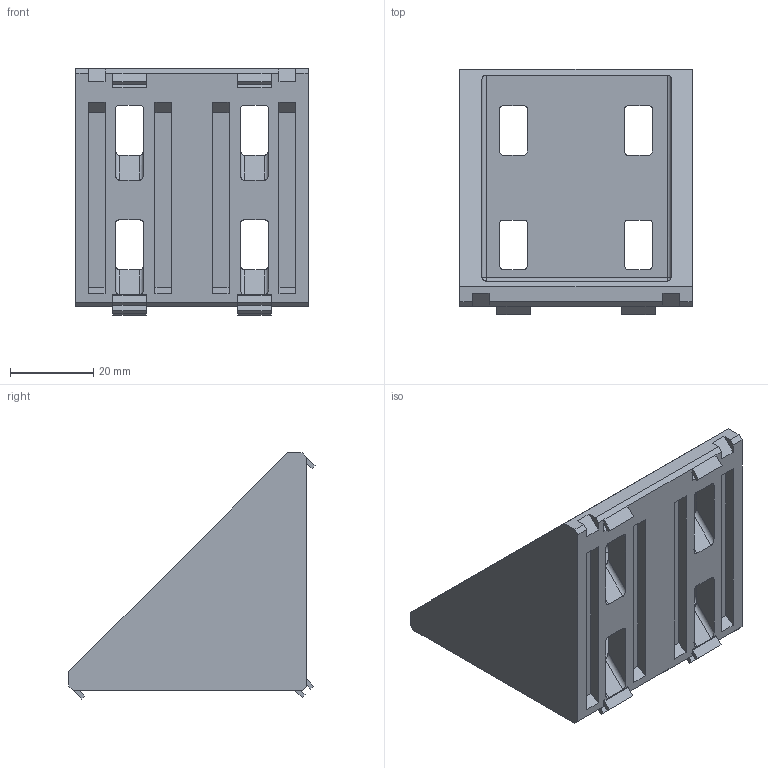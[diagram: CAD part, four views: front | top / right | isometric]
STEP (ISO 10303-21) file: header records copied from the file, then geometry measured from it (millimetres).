
FILE_DESCRIPTION (( 'STEP AP214' ), '1' );
FILE_NAME ('SNSD.30.51.61. Óãëîâîé àëþìèíèåâûé ñîåäèíèòåëü 60õ60, ïàç 8(A10).STEP', '2014-12-08T13:15:54', ( 'XTreme.ws' ), ( 'XTreme.ws' ), 'SwSTEP 2.0', 'SolidWorks 2014', '' );
FILE_SCHEMA (( 'AUTOMOTIVE_DESIGN' ));
Length unit declared in the file: millimetre
Products named in the file (1): SNSD.30.51.61. Óãëîâîé àëþìèíèåâûé ñîåäèíèòåëü 60õ60, ïàç 8(A10)
Bounding box: 55.8 x 59.12 x 59.12 mm (x, y, z)
Volume: 40132.5 mm3; surface area: 21257.9 mm2
Topology: 3 solids, 3 shells, 205 faces, 552 edges, 358 vertices
Faces by surface type: plane 166, cylinder 37, sphere 2
Entity records: 6358 total; most frequent: CARTESIAN_POINT 1222, ORIENTED_EDGE 1100, DIRECTION 964, EDGE_CURVE 550, LINE 476, VECTOR 476, VERTEX_POINT 358, AXIS2_PLACEMENT_3D 244
